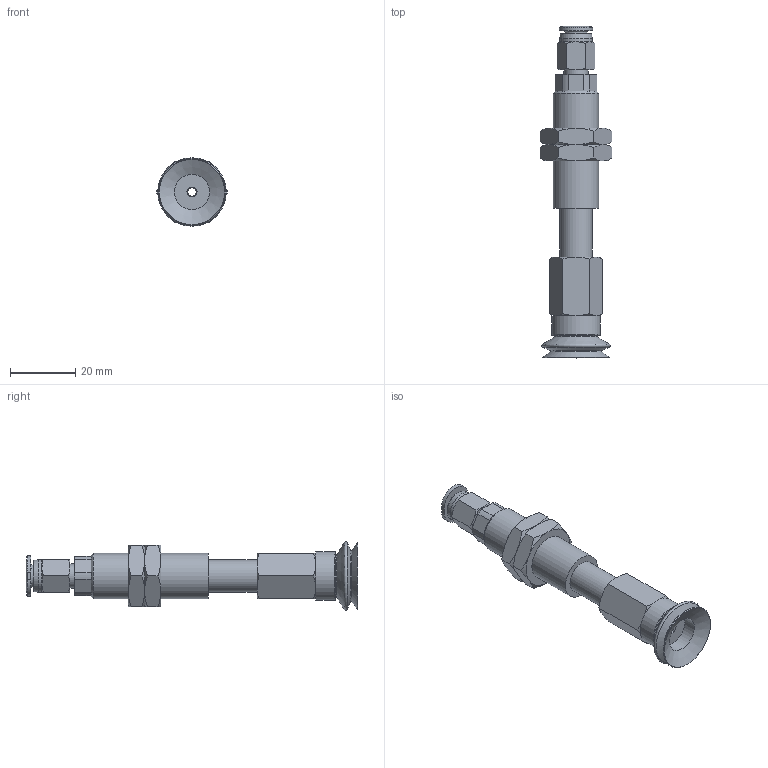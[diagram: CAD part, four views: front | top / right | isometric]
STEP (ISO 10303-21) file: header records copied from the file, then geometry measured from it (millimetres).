
FILE_DESCRIPTION(('STEP AP203'),'1');
FILE_NAME('-O.stp','2025-08-27T07:40:30',(' '),(' '),'Spatial InterOp 3D',' ',' ');
FILE_SCHEMA(('CONFIG_CONTROL_DESIGN'));
Length unit declared in the file: millimetre
Products named in the file (8): BNABPJTS-20-15-※-O; ADAPTER; NAPBTS-20-15--M; Adapter-20-NAPJ; NUT-NAPJ-20-15-s; NAPJTS-20-15-FBODY; BPJG-20-※; PC-C_06-M5
Assembly tree (8 placements, depth 2):
  BNABPJTS-20-15-※-O
    ADAPTER
    NAPBTS-20-15--M
    Adapter-20-NAPJ
    NUT-NAPJ-20-15-s  x2
    NAPJTS-20-15-FBODY
    BPJG-20-※
    PC-C_06-M5
Bounding box: 21.94 x 101.98 x 21 mm (x, y, z)
Volume: 13452.3 mm3; surface area: 11825.4 mm2
Topology: 7 solids, 10 shells, 178 faces, 374 edges, 227 vertices
Faces by surface type: plane 67, cone 65, cylinder 30, torus 9, bspline 4, revolution 3
Full cylindrical faces by diameter (mm): 2.5 x1, 3 x2, 4 x2, 4.134 x2, 4.6 x1, 5 x2, 7 x1, 7.4 x1, 8.2 x1, 10 x3, 10.8 x1, 11 x1, 13.188 x2, 14 x1, 15 x1
Entity records: 4700 total; most frequent: CARTESIAN_POINT 1309, DIRECTION 627, ORIENTED_EDGE 536, AXIS2_PLACEMENT_3D 276, EDGE_CURVE 270, EDGE_LOOP 228, VERTEX_POINT 190, FACE_OUTER_BOUND 125
